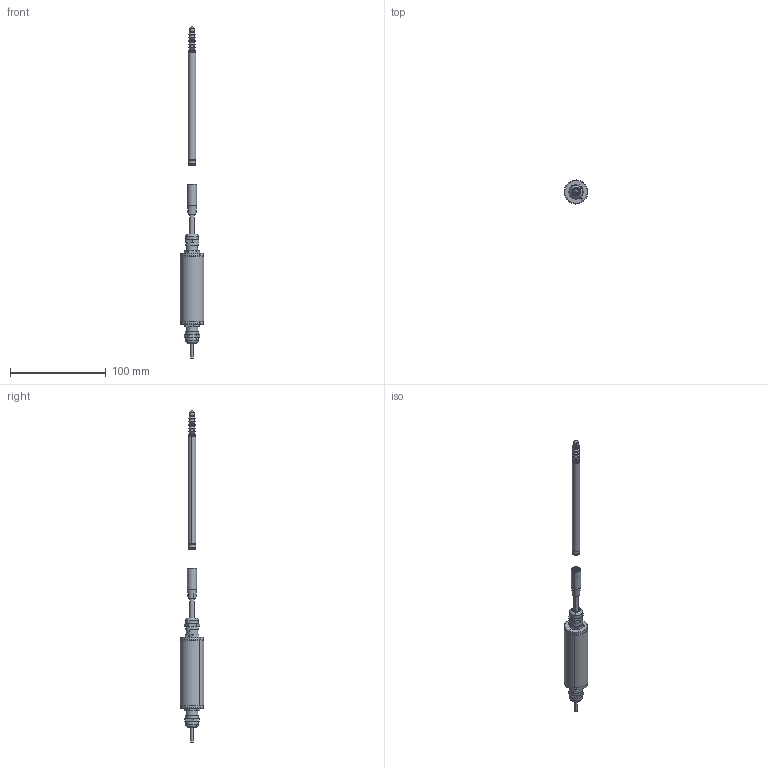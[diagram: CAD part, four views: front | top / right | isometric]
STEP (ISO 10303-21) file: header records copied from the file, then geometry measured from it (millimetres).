
FILE_DESCRIPTION(('STEP AP203'),'1');
FILE_NAME('C:/TPO v2/SharedFS/Outgoing/burster_8739-5010-v501_7r4evxpk9jj7uvj55f4n431r6.stp','2013-08-27T14:28:23',('TraceParts'),('TraceParts S.A.'),'XStep 1.0',' ',' ');
FILE_SCHEMA(('CONFIG_CONTROL_DESIGN'));
Length unit declared in the file: millimetre
Products named in the file (4): 1; 2; 3; 4
Bounding box: 24.99 x 24.99 x 346.9 mm (x, y, z)
Volume: 23655 mm3; surface area: 24862.2 mm2
Topology: 4 solids, 6 shells, 592 faces, 1455 edges, 917 vertices
Faces by surface type: cylinder 183, plane 154, cone 148, torus 97, sphere 10
Entity records: 17815 total; most frequent: DIRECTION 3379, CARTESIAN_POINT 3198, ORIENTED_EDGE 2882, EDGE_CURVE 1441, AXIS2_PLACEMENT_3D 1424, VERTEX_POINT 917, CIRCLE 828, EDGE_LOOP 654
